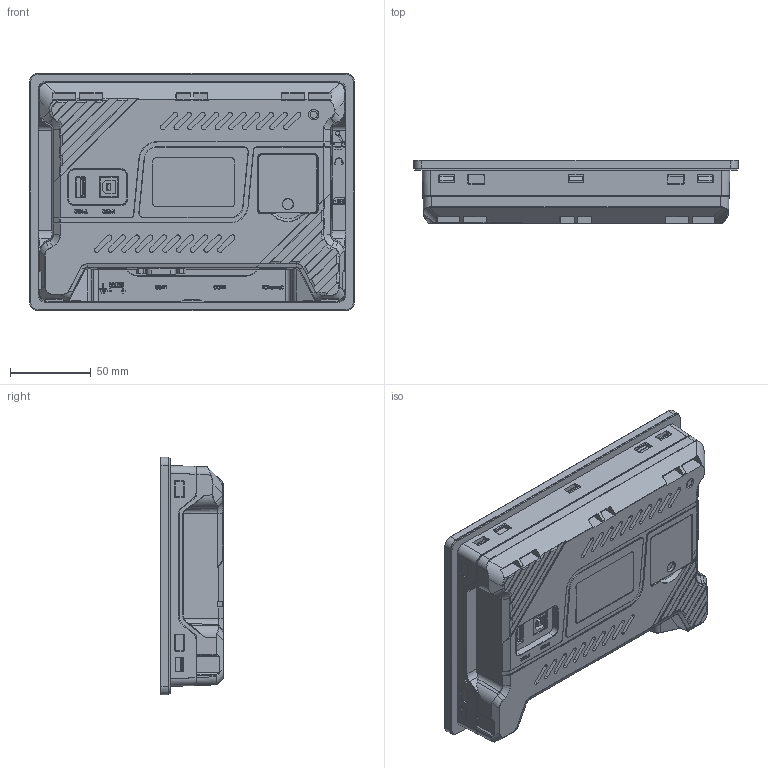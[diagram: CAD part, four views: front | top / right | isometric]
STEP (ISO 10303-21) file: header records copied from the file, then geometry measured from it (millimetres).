
FILE_DESCRIPTION((''),'2;1');
FILE_NAME('PRT0001_1_1_1','2025-02-22T18:30:18',('admin'),(''),'CREO PARAMETRIC BY PTC INC, 2018050','CREO PARAMETRIC BY PTC INC, 2018050','');
FILE_SCHEMA(('CONFIG_CONTROL_DESIGN'));
Products named in the file (1): PRT0001_1_1_1
Bounding box: 201.2 x 39 x 147.2 mm (x, y, z)
Volume: 889135.4 mm3; surface area: 99685.7 mm2
Topology: 2 solids, 3 shells, 2373 faces, 6381 edges, 4155 vertices
Faces by surface type: plane 1291, cylinder 483, extrusion 343, bspline 126, cone 67, torus 57, sphere 6
Entity records: 82188 total; most frequent: CARTESIAN_POINT 25221, ORIENTED_EDGE 12750, DIRECTION 9961, EDGE_CURVE 6375, VECTOR 4453, VERTEX_POINT 4155, LINE 4110, AXIS2_PLACEMENT_3D 2754
